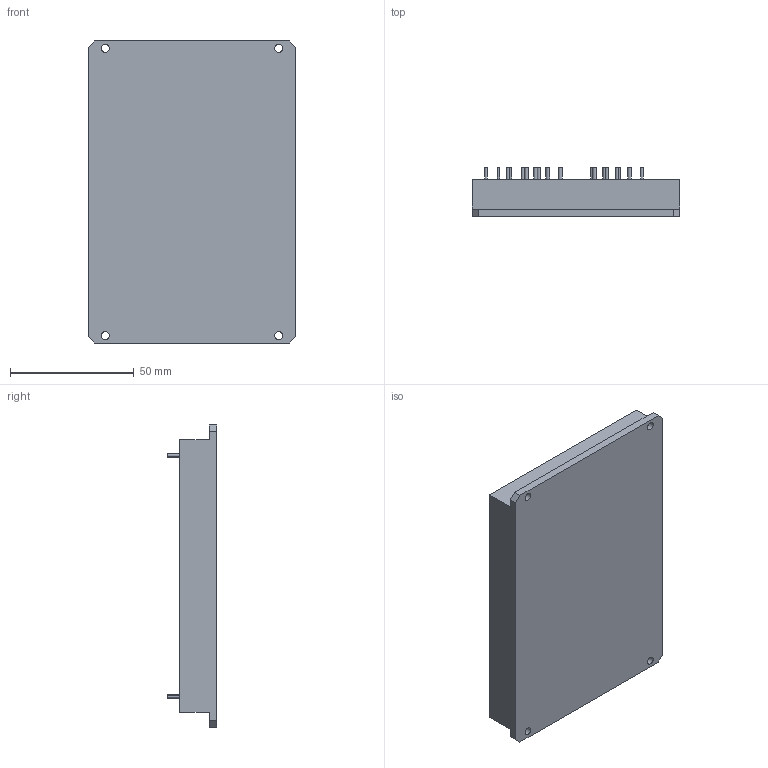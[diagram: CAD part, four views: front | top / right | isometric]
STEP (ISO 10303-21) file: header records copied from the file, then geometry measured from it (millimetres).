
FILE_DESCRIPTION(/* description */ (''),/* implementation_level */ '2;1');
FILE_NAME(/* name */ '',/* time_stamp */ '2020-02-28T15:05:37+01:00',/* author */ (''),/* organization */ (''),/* preprocessor_version */ 'ST-DEVELOPER v16.5',/* originating_system */ '',/* authorisation */ '');
FILE_SCHEMA (('AUTOMOTIVE_DESIGN { 1 0 10303 214 3 1 1 }'));
Length unit declared in the file: millimetre
Products named in the file (1): TESND1200-F7_pins
Bounding box: 84 x 20 x 122 mm (x, y, z)
Volume: 132776.5 mm3; surface area: 27282.9 mm2
Topology: 19 solids, 19 shells, 81 faces, 130 edges, 88 vertices
Faces by surface type: plane 55, cylinder 26
Full cylindrical faces by diameter (mm): 1 x6, 1.5 x12, 3.2 x4
Entity records: 1750 total; most frequent: DIRECTION 320, CARTESIAN_POINT 270, ORIENTED_EDGE 208, AXIS2_PLACEMENT_3D 134, EDGE_LOOP 112, EDGE_CURVE 104, VERTEX_POINT 84, FACE_OUTER_BOUND 81
